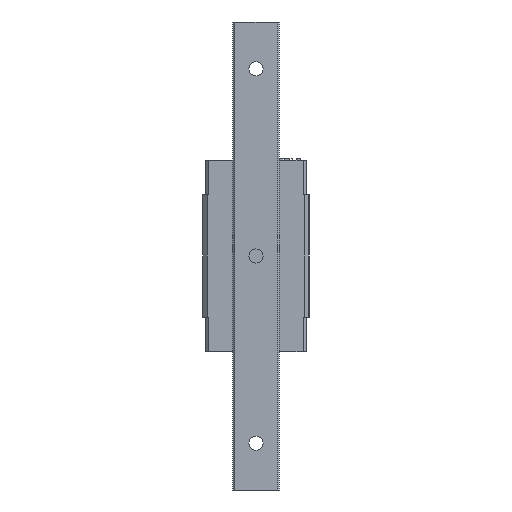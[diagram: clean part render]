
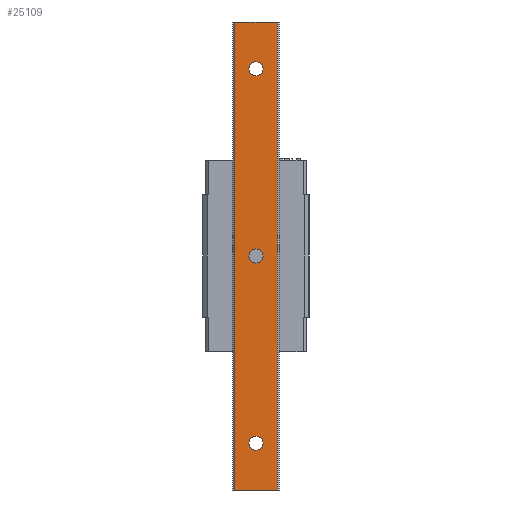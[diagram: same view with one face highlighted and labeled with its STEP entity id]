
A CAD part, front view. The second image highlights one B-rep face of the part: STEP entity #25109.
In plain terms, the highlighted planar face has unit normal (0, -1, 0).
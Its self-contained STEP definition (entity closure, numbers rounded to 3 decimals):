
#150 = DIRECTION ( 'NONE',  ( 0., 1., 0. ) ) ;
#217 = AXIS2_PLACEMENT_3D ( 'NONE', #296, #5395, #35720 ) ;
#296 = CARTESIAN_POINT ( 'NONE',  ( 0., -15., 60. ) ) ;
#1000 = CARTESIAN_POINT ( 'NONE',  ( -2.25, -15., -60. ) ) ;
#1471 = EDGE_CURVE ( 'NONE', #16422, #4748, #25958, .T. ) ;
#1597 = DIRECTION ( 'NONE',  ( 0., 1., 0. ) ) ;
#2846 = VECTOR ( 'NONE', #2914, 1000. ) ;
#2914 = DIRECTION ( 'NONE',  ( -1., 0., 0. ) ) ;
#3204 = EDGE_CURVE ( 'NONE', #8923, #28119, #32048, .T. ) ;
#3273 = CARTESIAN_POINT ( 'NONE',  ( 0., -15., -60. ) ) ;
#4058 = VERTEX_POINT ( 'NONE', #1000 ) ;
#4748 = VERTEX_POINT ( 'NONE', #9826 ) ;
#5395 = DIRECTION ( 'NONE',  ( 0., 1., 0. ) ) ;
#5657 = ORIENTED_EDGE ( 'NONE', *, *, #33571, .T. ) ;
#6050 = DIRECTION ( 'NONE',  ( 0., 1., 0. ) ) ;
#6534 = CARTESIAN_POINT ( 'NONE',  ( 6.8, -15., 75. ) ) ;
#6644 = AXIS2_PLACEMENT_3D ( 'NONE', #3273, #150, #24190 ) ;
#7738 = VERTEX_POINT ( 'NONE', #11563 ) ;
#7814 = ORIENTED_EDGE ( 'NONE', *, *, #36393, .T. ) ;
#8110 = CARTESIAN_POINT ( 'NONE',  ( -2.25, -15., 60. ) ) ;
#8218 = FACE_BOUND ( 'NONE', #33208, .T. ) ;
#8518 = LINE ( 'NONE', #20437, #13194 ) ;
#8923 = VERTEX_POINT ( 'NONE', #15816 ) ;
#9426 = CARTESIAN_POINT ( 'NONE',  ( 0., -15., 0. ) ) ;
#9826 = CARTESIAN_POINT ( 'NONE',  ( -2.25, -15., 0. ) ) ;
#10104 = VECTOR ( 'NONE', #16391, 1000. ) ;
#10469 = VERTEX_POINT ( 'NONE', #17419 ) ;
#11563 = CARTESIAN_POINT ( 'NONE',  ( -6.8, -15., 75. ) ) ;
#12317 = EDGE_LOOP ( 'NONE', ( #33104, #36650 ) ) ;
#12952 = CARTESIAN_POINT ( 'NONE',  ( 2.25, -15., -60. ) ) ;
#13194 = VECTOR ( 'NONE', #32364, 1000. ) ;
#13302 = EDGE_CURVE ( 'NONE', #27484, #10469, #34572, .T. ) ;
#13686 = PLANE ( 'NONE',  #14277 ) ;
#14084 = EDGE_CURVE ( 'NONE', #4748, #16422, #15760, .T. ) ;
#14277 = AXIS2_PLACEMENT_3D ( 'NONE', #17207, #31855, #29078 ) ;
#15242 = CARTESIAN_POINT ( 'NONE',  ( 0., -15., 60. ) ) ;
#15316 = ORIENTED_EDGE ( 'NONE', *, *, #36388, .T. ) ;
#15760 = CIRCLE ( 'NONE', #37585, 2.25 ) ;
#15816 = CARTESIAN_POINT ( 'NONE',  ( -6.8, -15., -75. ) ) ;
#16256 = CIRCLE ( 'NONE', #30547, 2.25 ) ;
#16391 = DIRECTION ( 'NONE',  ( 0., 0., -1. ) ) ;
#16422 = VERTEX_POINT ( 'NONE', #33616 ) ;
#16979 = VERTEX_POINT ( 'NONE', #12952 ) ;
#17207 = CARTESIAN_POINT ( 'NONE',  ( -6.8, -15., -75. ) ) ;
#17419 = CARTESIAN_POINT ( 'NONE',  ( 2.25, -15., 60. ) ) ;
#18035 = DIRECTION ( 'NONE',  ( 0., 1., 0. ) ) ;
#19310 = VECTOR ( 'NONE', #29275, 1000. ) ;
#19630 = ORIENTED_EDGE ( 'NONE', *, *, #21841, .T. ) ;
#20384 = CIRCLE ( 'NONE', #6644, 2.25 ) ;
#20437 = CARTESIAN_POINT ( 'NONE',  ( 6.8, -15., -75. ) ) ;
#21078 = EDGE_CURVE ( 'NONE', #28119, #24868, #8518, .T. ) ;
#21841 = EDGE_CURVE ( 'NONE', #7738, #8923, #21858, .T. ) ;
#21858 = LINE ( 'NONE', #31418, #10104 ) ;
#22869 = CIRCLE ( 'NONE', #37837, 2.25 ) ;
#23073 = CARTESIAN_POINT ( 'NONE',  ( 0., -15., -60. ) ) ;
#23088 = CARTESIAN_POINT ( 'NONE',  ( -6.8, -15., 75. ) ) ;
#23259 = DIRECTION ( 'NONE',  ( 0., 1., 0. ) ) ;
#23336 = ORIENTED_EDGE ( 'NONE', *, *, #3204, .T. ) ;
#23435 = CARTESIAN_POINT ( 'NONE',  ( -6.8, -15., -75. ) ) ;
#23455 = ORIENTED_EDGE ( 'NONE', *, *, #29804, .T. ) ;
#24190 = DIRECTION ( 'NONE',  ( -1., 0., 0. ) ) ;
#24868 = VERTEX_POINT ( 'NONE', #6534 ) ;
#25109 = ADVANCED_FACE ( 'NONE', ( #25757, #37149, #8218, #28699 ), #13686, .T. ) ;
#25757 = FACE_BOUND ( 'NONE', #12317, .T. ) ;
#25826 = ORIENTED_EDGE ( 'NONE', *, *, #21078, .T. ) ;
#25958 = CIRCLE ( 'NONE', #35346, 2.25 ) ;
#26733 = DIRECTION ( 'NONE',  ( -1., 0., 0. ) ) ;
#27484 = VERTEX_POINT ( 'NONE', #8110 ) ;
#28119 = VERTEX_POINT ( 'NONE', #32624 ) ;
#28346 = CARTESIAN_POINT ( 'NONE',  ( 0., -15., 0. ) ) ;
#28699 = FACE_OUTER_BOUND ( 'NONE', #34806, .T. ) ;
#29078 = DIRECTION ( 'NONE',  ( 0., 0., -1. ) ) ;
#29275 = DIRECTION ( 'NONE',  ( 1., 0., 0. ) ) ;
#29804 = EDGE_CURVE ( 'NONE', #24868, #7738, #38712, .T. ) ;
#30166 = ORIENTED_EDGE ( 'NONE', *, *, #13302, .T. ) ;
#30547 = AXIS2_PLACEMENT_3D ( 'NONE', #23073, #23259, #31866 ) ;
#31418 = CARTESIAN_POINT ( 'NONE',  ( -6.8, -15., -75. ) ) ;
#31855 = DIRECTION ( 'NONE',  ( 0., -1., 0. ) ) ;
#31856 = EDGE_LOOP ( 'NONE', ( #5657, #15316 ) ) ;
#31866 = DIRECTION ( 'NONE',  ( -1., 0., 0. ) ) ;
#32048 = LINE ( 'NONE', #23435, #19310 ) ;
#32364 = DIRECTION ( 'NONE',  ( 0., 0., 1. ) ) ;
#32624 = CARTESIAN_POINT ( 'NONE',  ( 6.8, -15., -75. ) ) ;
#33104 = ORIENTED_EDGE ( 'NONE', *, *, #14084, .T. ) ;
#33208 = EDGE_LOOP ( 'NONE', ( #30166, #7814 ) ) ;
#33571 = EDGE_CURVE ( 'NONE', #4058, #16979, #16256, .T. ) ;
#33616 = CARTESIAN_POINT ( 'NONE',  ( 2.25, -15., 0. ) ) ;
#34572 = CIRCLE ( 'NONE', #217, 2.25 ) ;
#34806 = EDGE_LOOP ( 'NONE', ( #19630, #23336, #25826, #23455 ) ) ;
#35346 = AXIS2_PLACEMENT_3D ( 'NONE', #28346, #1597, #37368 ) ;
#35720 = DIRECTION ( 'NONE',  ( -1., 0., 0. ) ) ;
#35820 = DIRECTION ( 'NONE',  ( -1., 0., 0. ) ) ;
#36388 = EDGE_CURVE ( 'NONE', #16979, #4058, #20384, .T. ) ;
#36393 = EDGE_CURVE ( 'NONE', #10469, #27484, #22869, .T. ) ;
#36650 = ORIENTED_EDGE ( 'NONE', *, *, #1471, .T. ) ;
#37149 = FACE_BOUND ( 'NONE', #31856, .T. ) ;
#37368 = DIRECTION ( 'NONE',  ( -1., 0., 0. ) ) ;
#37585 = AXIS2_PLACEMENT_3D ( 'NONE', #9426, #18035, #35820 ) ;
#37837 = AXIS2_PLACEMENT_3D ( 'NONE', #15242, #6050, #26733 ) ;
#38712 = LINE ( 'NONE', #23088, #2846 ) ;
